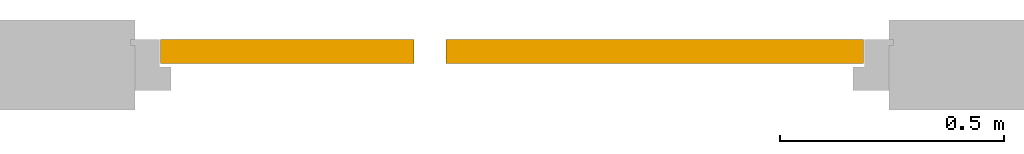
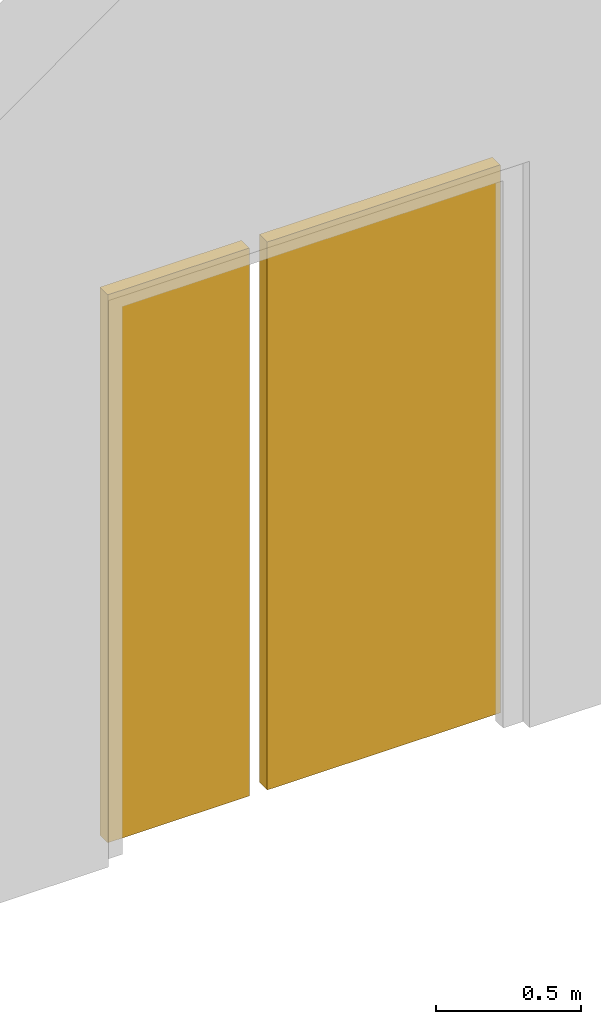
# One storey, part 2 of 3: 2 doors.
"""IFC2X3 building model written with IfcOpenShell, lengths in millimetres."""

from ifc_helpers import new_model, entity, si_unit, converted_unit, derived_unit, direction, frame, origin, origin_2d_with_axis, place, context, subcontext, project, spatial, rectangle, extrude, source, transform, mapped, material, type_object, type_shapes, element, save


model = new_model("IFC2X3")

# Units and contexts
model_context = context("Model", 3, precision=0.01, world=origin(), true_north=direction((6.12303176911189e-17, 1.0)))
plan_context = context("Plan", 3, precision=0.01, world=origin(), true_north=direction((6.12303176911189e-17, 1.0)))
body_context = subcontext(model_context, "Body", "Model", "MODEL_VIEW")
ifc_project = project(units=[si_unit("LENGTHUNIT", "METRE", prefix="MILLI"), si_unit("AREAUNIT", "SQUARE_METRE"), si_unit("VOLUMEUNIT", "CUBIC_METRE"), converted_unit("PLANEANGLEUNIT", "DEGREE", entity("IfcRatioMeasure", 0.0174532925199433), si_unit("PLANEANGLEUNIT", "RADIAN"), dimensions=[0, 0, 0, 0, 0, 0, 0]), si_unit("MASSUNIT", "GRAM", prefix="KILO"), derived_unit("MASSDENSITYUNIT", [(si_unit("MASSUNIT", "GRAM", prefix="KILO"), 1), (si_unit("LENGTHUNIT", "METRE"), -3)]), derived_unit("MOMENTOFINERTIAUNIT", [(si_unit("LENGTHUNIT", "METRE"), 4)]), si_unit("TIMEUNIT", "SECOND"), si_unit("FREQUENCYUNIT", "HERTZ"), si_unit("THERMODYNAMICTEMPERATUREUNIT", "DEGREE_CELSIUS"), derived_unit("THERMALTRANSMITTANCEUNIT", [(si_unit("MASSUNIT", "GRAM", prefix="KILO"), 1), (si_unit("THERMODYNAMICTEMPERATUREUNIT", "KELVIN"), -1), (si_unit("TIMEUNIT", "SECOND"), -3)]), derived_unit("VOLUMETRICFLOWRATEUNIT", [(si_unit("LENGTHUNIT", "METRE"), 3), (si_unit("TIMEUNIT", "SECOND"), -1)]), si_unit("ELECTRICCURRENTUNIT", "AMPERE"), si_unit("ELECTRICVOLTAGEUNIT", "VOLT"), si_unit("POWERUNIT", "WATT"), si_unit("FORCEUNIT", "NEWTON", prefix="KILO"), si_unit("ILLUMINANCEUNIT", "LUX"), si_unit("LUMINOUSFLUXUNIT", "LUMEN"), si_unit("LUMINOUSINTENSITYUNIT", "CANDELA"), derived_unit("USERDEFINED", [(si_unit("MASSUNIT", "GRAM", prefix="KILO"), -1), (si_unit("LENGTHUNIT", "METRE"), -2), (si_unit("TIMEUNIT", "SECOND"), 3), (si_unit("LUMINOUSFLUXUNIT", "LUMEN"), 1)]), derived_unit("LINEARVELOCITYUNIT", [(si_unit("LENGTHUNIT", "METRE"), 1), (si_unit("TIMEUNIT", "SECOND"), -1)]), si_unit("PRESSUREUNIT", "PASCAL"), derived_unit("USERDEFINED", [(si_unit("LENGTHUNIT", "METRE"), -2), (si_unit("MASSUNIT", "GRAM", prefix="KILO"), 1), (si_unit("TIMEUNIT", "SECOND"), -2)]), derived_unit("LINEARFORCEUNIT", [(si_unit("MASSUNIT", "GRAM", prefix="KILO"), 1), (si_unit("LENGTHUNIT", "METRE"), 1), (si_unit("TIMEUNIT", "SECOND"), -2), (si_unit("LENGTHUNIT", "METRE"), -1)]), derived_unit("PLANARFORCEUNIT", [(si_unit("MASSUNIT", "GRAM", prefix="KILO"), 1), (si_unit("LENGTHUNIT", "METRE"), 1), (si_unit("TIMEUNIT", "SECOND"), -2), (si_unit("LENGTHUNIT", "METRE"), -2)])], contexts=[model_context, plan_context])

# Site, building, storey
site_placement = place(None, origin())
site = spatial("IfcSite", under=ifc_project, at=site_placement, Name="Default", CompositionType="ELEMENT")
building_placement = place(site_placement, origin())
building = spatial("IfcBuilding", under=site, at=building_placement, CompositionType="ELEMENT")
storey_placement = place(building_placement, origin())
storey = spatial("IfcBuildingStorey", under=building, at=storey_placement, Name="Level 1", CompositionType="ELEMENT", Elevation=0.0)

# Doors
ifc_material = material(Name="n6_binnendeur")
door_style_1 = type_object("IfcDoorStyle", Name="32_houten_deur:Binnendeur", ConstructionType="NOTDEFINED", OperationType="NOTDEFINED", ParameterTakesPrecedence=False, Sizeable=False, material=ifc_material)
shared_shape_1 = source(origin(), body_context, "Body", "SweptSolid", [
    extrude(rectangle(XDim=565.0, YDim=54.0, at=origin_2d_with_axis()), frame((0.0, 0.0, 20.0), z_axis=(0.0, 0.0, 1.0), x_axis=(-1.0, 0.0, 0.0)), (0.0, 0.0, 1.0), 2312.0),
])
type_shapes(door_style_1, [shared_shape_1])
door_1_placement = place(storey_placement, frame((2762.5808950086, 3050.65404475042, 0.0)))
element("IfcDoor", 1, at=door_1_placement, inside=storey, type_object=door_style_1, material=ifc_material, Name="32_houten_deur:Binnendeur", ObjectType="32_houten_deur:Binnendeur", OverallHeight=2335.00000000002, OverallWidth=615.0, context=body_context, shape_type="MappedRepresentation", body=[
    mapped(shared_shape_1, transform((0.0, 0.0, 0.0), scale=1.0)),
])
door_style_2 = type_object("IfcDoorStyle", Name="32_houten_deur:Binnendeur", ConstructionType="NOTDEFINED", OperationType="NOTDEFINED", ParameterTakesPrecedence=False, Sizeable=False, material=ifc_material)
shared_shape_2 = source(origin(), body_context, "Body", "SweptSolid", [
    extrude(rectangle(XDim=930.0, YDim=54.0, at=origin_2d_with_axis()), frame((0.0, 0.0, 20.0), z_axis=(0.0, 0.0, 1.0), x_axis=(-1.0, 0.0, 0.0)), (0.0, 0.0, 1.0), 2312.0),
])
type_shapes(door_style_2, [shared_shape_2])
door_2_placement = place(storey_placement, frame((3581.0808950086, 3050.65404475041, 0.0)))
element("IfcDoor", 2, at=door_2_placement, inside=storey, type_object=door_style_2, material=ifc_material, Name="32_houten_deur:Binnendeur", ObjectType="32_houten_deur:Binnendeur", OverallHeight=2335.00000000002, OverallWidth=980.0, context=body_context, shape_type="MappedRepresentation", body=[
    mapped(shared_shape_2, transform((0.0, 0.0, 0.0), scale=1.0)),
])

save(model, "model.ifc")
